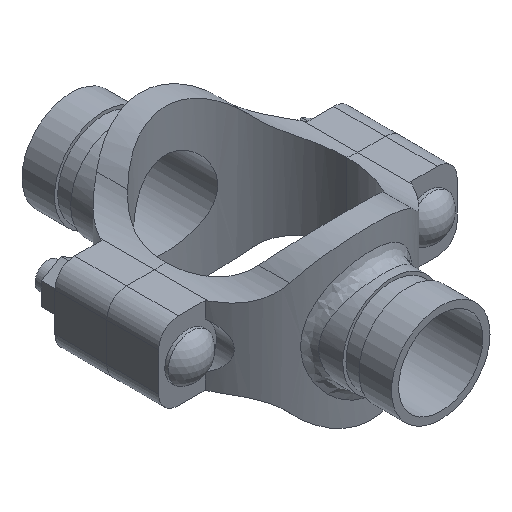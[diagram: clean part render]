
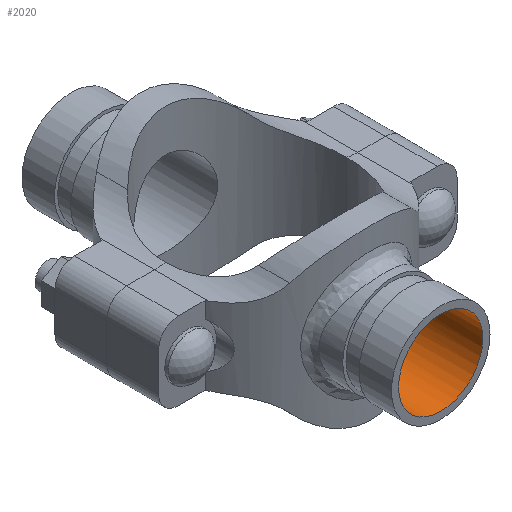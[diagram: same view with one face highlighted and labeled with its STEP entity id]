
A CAD part, isometric view. The second image highlights one B-rep face of the part: STEP entity #2020.
In plain terms, the highlighted cylindrical face has radius 20.637 mm (diameter 41.275 mm), a full revolution.
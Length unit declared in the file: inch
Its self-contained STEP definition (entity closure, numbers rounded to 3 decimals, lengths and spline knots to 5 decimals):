
#52=B_SPLINE_CURVE_WITH_KNOTS('',3,(#4092,#4093,#4094,#4095,#4096,#4097,
#4098,#4099,#4100,#4101,#4102,#4103,#4104,#4105,#4106,#4107,#4108,#4109,
#4110,#4111,#4112,#4113,#4114,#4115,#4116,#4117,#4118,#4119,#4120,#4121,
#4122,#4123,#4124,#4125,#4126,#4127,#4128,#4129,#4130,#4131,#4132,#4133,
#4134,#4135,#4136,#4137,#4138,#4139,#4140,#4141,#4142,#4143,#4144,#4145,
#4146,#4147,#4148,#4149,#4150,#4151,#4152,#4153,#4154,#4155,#4156,#4157),
 .UNSPECIFIED.,.T.,.F.,(4,2,2,2,2,2,2,2,2,2,2,2,2,2,2,2,2,2,2,2,2,2,2,2,
2,2,2,2,2,2,2,2,4),(0.,0.39579,0.79159,1.18738,
1.58317,1.97819,2.37322,2.76824,3.16326,
3.55828,3.9533,4.34832,4.74335,5.13914,
5.53493,5.93073,6.32652,6.72231,7.1181,
7.5139,7.90969,8.30471,8.69973,9.09476,
9.48978,9.8848,10.27982,10.67484,11.06986,
11.46566,11.86145,12.25724,12.65304),
 .UNSPECIFIED.);
#99=CYLINDRICAL_SURFACE('',#2261,0.8125);
#218=FACE_OUTER_BOUND('',#342,.T.);
#342=EDGE_LOOP('',(#1624,#1625,#1626,#1627));
#494=LINE('',#4091,#644);
#644=VECTOR('',#2736,0.8125);
#748=CIRCLE('',#2262,0.8125);
#917=VERTEX_POINT('',#4088);
#918=VERTEX_POINT('',#4090);
#1168=EDGE_CURVE('',#917,#917,#748,.T.);
#1169=EDGE_CURVE('',#917,#918,#494,.T.);
#1170=EDGE_CURVE('',#918,#918,#52,.T.);
#1624=ORIENTED_EDGE('',*,*,#1168,.F.);
#1625=ORIENTED_EDGE('',*,*,#1169,.T.);
#1626=ORIENTED_EDGE('',*,*,#1170,.F.);
#1627=ORIENTED_EDGE('',*,*,#1169,.F.);
#2020=ADVANCED_FACE('',(#218),#99,.F.);
#2261=AXIS2_PLACEMENT_3D('',#4087,#2732,#2733);
#2262=AXIS2_PLACEMENT_3D('',#4089,#2734,#2735);
#2732=DIRECTION('center_axis',(0.,-1.,0.));
#2733=DIRECTION('ref_axis',(-1.,0.,0.));
#2734=DIRECTION('center_axis',(0.,-1.,0.));
#2735=DIRECTION('ref_axis',(-1.,0.,0.));
#2736=DIRECTION('',(0.,-1.,0.));
#4087=CARTESIAN_POINT('Origin',(0.,3.56,0.));
#4088=CARTESIAN_POINT('',(0.8125,3.56,0.));
#4089=CARTESIAN_POINT('Origin',(0.,3.56,0.));
#4090=CARTESIAN_POINT('',(0.8125,1.54995,0.));
#4091=CARTESIAN_POINT('',(0.8125,3.56,0.));
#4092=CARTESIAN_POINT('Ctrl Pts',(0.8125,1.54995,0.));
#4093=CARTESIAN_POINT('Ctrl Pts',(0.8125,1.54995,-0.05194));
#4094=CARTESIAN_POINT('Ctrl Pts',(0.80744,1.55264,-0.10534));
#4095=CARTESIAN_POINT('Ctrl Pts',(0.78647,1.56336,-0.21099));
#4096=CARTESIAN_POINT('Ctrl Pts',(0.77057,1.57138,-0.26324));
#4097=CARTESIAN_POINT('Ctrl Pts',(0.7289,1.59114,-0.36302));
#4098=CARTESIAN_POINT('Ctrl Pts',(0.70309,1.60287,-0.41065));
#4099=CARTESIAN_POINT('Ctrl Pts',(0.64374,1.62762,-0.49857));
#4100=CARTESIAN_POINT('Ctrl Pts',(0.61019,1.64061,-0.53886));
#4101=CARTESIAN_POINT('Ctrl Pts',(0.53893,1.66538,-0.61012));
#4102=CARTESIAN_POINT('Ctrl Pts',(0.49867,1.67807,-0.64366));
#4103=CARTESIAN_POINT('Ctrl Pts',(0.41074,1.70173,-0.70304));
#4104=CARTESIAN_POINT('Ctrl Pts',(0.36306,1.71268,-0.72888));
#4105=CARTESIAN_POINT('Ctrl Pts',(0.26317,1.73084,-0.7706));
#4106=CARTESIAN_POINT('Ctrl Pts',(0.21087,1.73806,-0.78651));
#4107=CARTESIAN_POINT('Ctrl Pts',(0.10521,1.74764,-0.80746));
#4108=CARTESIAN_POINT('Ctrl Pts',(0.05184,1.75,-0.8125));
#4109=CARTESIAN_POINT('Ctrl Pts',(-0.05184,1.75,-0.8125));
#4110=CARTESIAN_POINT('Ctrl Pts',(-0.10521,1.74764,-0.80746));
#4111=CARTESIAN_POINT('Ctrl Pts',(-0.21087,1.73806,-0.78651));
#4112=CARTESIAN_POINT('Ctrl Pts',(-0.26317,1.73084,-0.7706));
#4113=CARTESIAN_POINT('Ctrl Pts',(-0.36306,1.71268,-0.72888));
#4114=CARTESIAN_POINT('Ctrl Pts',(-0.41074,1.70173,-0.70304));
#4115=CARTESIAN_POINT('Ctrl Pts',(-0.49867,1.67807,-0.64366));
#4116=CARTESIAN_POINT('Ctrl Pts',(-0.53893,1.66538,-0.61012));
#4117=CARTESIAN_POINT('Ctrl Pts',(-0.61019,1.64061,-0.53886));
#4118=CARTESIAN_POINT('Ctrl Pts',(-0.64374,1.62762,-0.49857));
#4119=CARTESIAN_POINT('Ctrl Pts',(-0.70309,1.60287,-0.41065));
#4120=CARTESIAN_POINT('Ctrl Pts',(-0.7289,1.59114,-0.36302));
#4121=CARTESIAN_POINT('Ctrl Pts',(-0.77057,1.57138,-0.26324));
#4122=CARTESIAN_POINT('Ctrl Pts',(-0.78647,1.56336,-0.21099));
#4123=CARTESIAN_POINT('Ctrl Pts',(-0.80744,1.55264,-0.10534));
#4124=CARTESIAN_POINT('Ctrl Pts',(-0.8125,1.54995,-0.05194));
#4125=CARTESIAN_POINT('Ctrl Pts',(-0.8125,1.54995,0.05194));
#4126=CARTESIAN_POINT('Ctrl Pts',(-0.80744,1.55264,0.10534));
#4127=CARTESIAN_POINT('Ctrl Pts',(-0.78647,1.56336,0.21099));
#4128=CARTESIAN_POINT('Ctrl Pts',(-0.77057,1.57138,0.26324));
#4129=CARTESIAN_POINT('Ctrl Pts',(-0.7289,1.59114,0.36302));
#4130=CARTESIAN_POINT('Ctrl Pts',(-0.70309,1.60287,0.41065));
#4131=CARTESIAN_POINT('Ctrl Pts',(-0.64374,1.62762,0.49857));
#4132=CARTESIAN_POINT('Ctrl Pts',(-0.61019,1.64061,0.53886));
#4133=CARTESIAN_POINT('Ctrl Pts',(-0.53893,1.66538,0.61012));
#4134=CARTESIAN_POINT('Ctrl Pts',(-0.49867,1.67807,0.64366));
#4135=CARTESIAN_POINT('Ctrl Pts',(-0.41074,1.70173,0.70304));
#4136=CARTESIAN_POINT('Ctrl Pts',(-0.36306,1.71268,0.72888));
#4137=CARTESIAN_POINT('Ctrl Pts',(-0.26317,1.73084,0.7706));
#4138=CARTESIAN_POINT('Ctrl Pts',(-0.21087,1.73806,0.78651));
#4139=CARTESIAN_POINT('Ctrl Pts',(-0.10521,1.74764,0.80746));
#4140=CARTESIAN_POINT('Ctrl Pts',(-0.05184,1.75,0.8125));
#4141=CARTESIAN_POINT('Ctrl Pts',(0.05184,1.75,0.8125));
#4142=CARTESIAN_POINT('Ctrl Pts',(0.10521,1.74764,0.80746));
#4143=CARTESIAN_POINT('Ctrl Pts',(0.21087,1.73806,0.78651));
#4144=CARTESIAN_POINT('Ctrl Pts',(0.26317,1.73084,0.7706));
#4145=CARTESIAN_POINT('Ctrl Pts',(0.36306,1.71268,0.72888));
#4146=CARTESIAN_POINT('Ctrl Pts',(0.41074,1.70173,0.70304));
#4147=CARTESIAN_POINT('Ctrl Pts',(0.49867,1.67807,0.64366));
#4148=CARTESIAN_POINT('Ctrl Pts',(0.53893,1.66538,0.61012));
#4149=CARTESIAN_POINT('Ctrl Pts',(0.61019,1.64061,0.53886));
#4150=CARTESIAN_POINT('Ctrl Pts',(0.64374,1.62762,0.49857));
#4151=CARTESIAN_POINT('Ctrl Pts',(0.70309,1.60287,0.41065));
#4152=CARTESIAN_POINT('Ctrl Pts',(0.7289,1.59114,0.36302));
#4153=CARTESIAN_POINT('Ctrl Pts',(0.77057,1.57138,0.26324));
#4154=CARTESIAN_POINT('Ctrl Pts',(0.78647,1.56336,0.21099));
#4155=CARTESIAN_POINT('Ctrl Pts',(0.80744,1.55264,0.10534));
#4156=CARTESIAN_POINT('Ctrl Pts',(0.8125,1.54995,0.05194));
#4157=CARTESIAN_POINT('Ctrl Pts',(0.8125,1.54995,0.));
